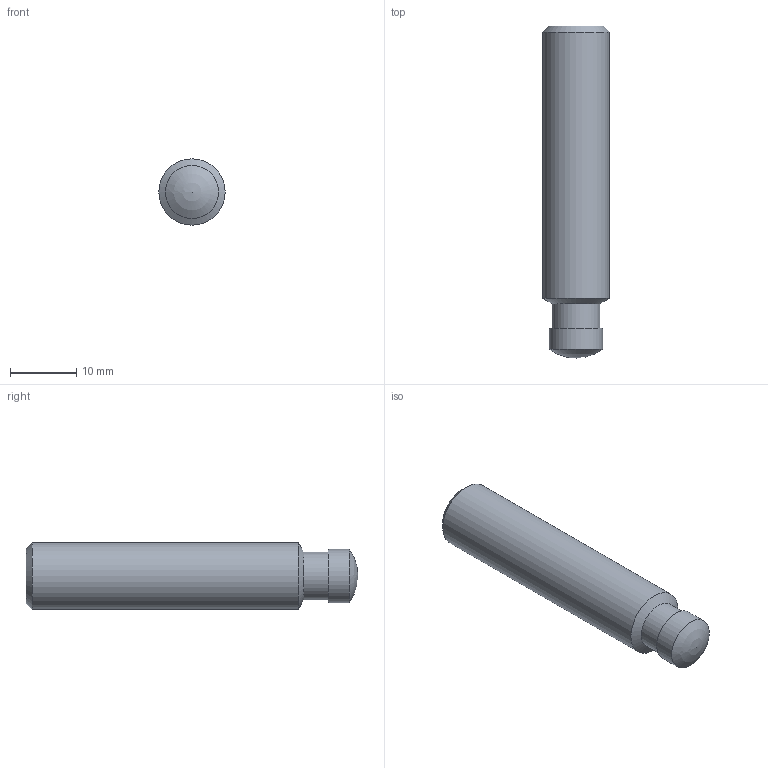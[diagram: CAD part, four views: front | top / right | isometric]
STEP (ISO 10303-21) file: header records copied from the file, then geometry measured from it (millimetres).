
FILE_DESCRIPTION( ( 'STEP AP203' ), '1' );
FILE_NAME( 'C:/Temp/Ganter_Step_05_03_2020/data/3_2/din6332/din6332/Grub screw DIN 6332-M10-50-SKN.stp', '2020-03-13T05:16:29', ( 'License CC BY-ND 4.0' ), ( 'CADENAS' ), ' ', 'PARTsolutions', ' ' );
FILE_SCHEMA( ( 'CONFIG_CONTROL_DESIGN' ) );
Length unit declared in the file: millimetre
Products named in the file (1): _Grub screw DIN 6332-M10-50-SKN
Bounding box: 10 x 50 x 10 mm (x, y, z)
Volume: 3534.8 mm3; surface area: 1673 mm2
Topology: 1 solids, 1 shells, 15 faces, 33 edges, 21 vertices
Faces by surface type: plane 9, cylinder 3, cone 2, sphere 1
Full cylindrical faces by diameter (mm): 7.2 x1, 8 x1, 10 x1
Entity records: 410 total; most frequent: DIRECTION 64, CARTESIAN_POINT 61, ORIENTED_EDGE 50, EDGE_CURVE 25, AXIS2_PLACEMENT_3D 23, EDGE_LOOP 22, VERTEX_POINT 20, FACE_OUTER_BOUND 18
